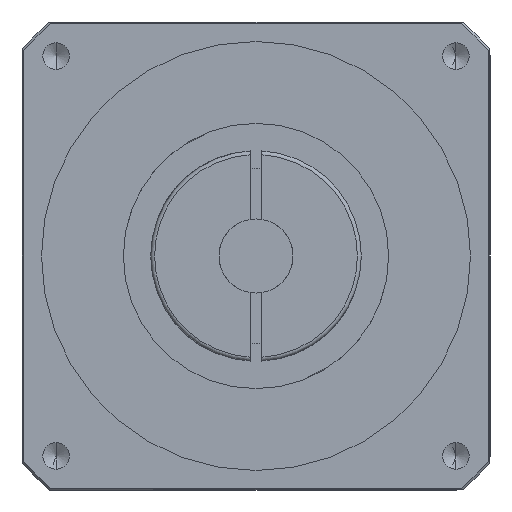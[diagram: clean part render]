
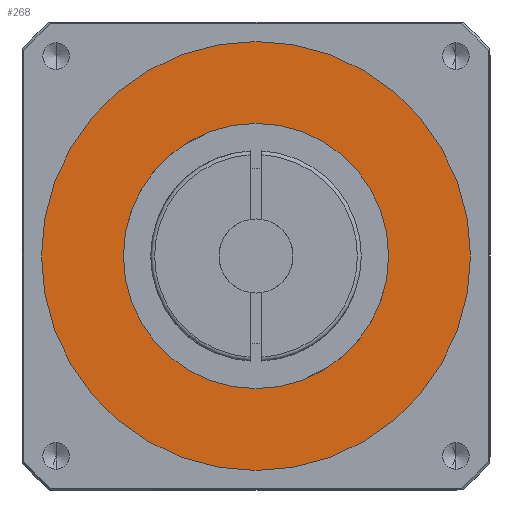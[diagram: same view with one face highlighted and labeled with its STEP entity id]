
A CAD part, front view. The second image highlights one B-rep face of the part: STEP entity #268.
In plain terms, the highlighted planar face has unit normal (0, -1, 0).
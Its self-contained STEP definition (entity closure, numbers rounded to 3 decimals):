
#268 = ADVANCED_FACE ( 'NONE', ( #2836, #2844 ), #4970, .T. ) ;
#821 = EDGE_CURVE ( 'NONE', #2356, #2357, #2944, .T. ) ;
#870 = EDGE_CURVE ( 'NONE', #2004, #1961, #3004, .T. ) ;
#1087 = EDGE_CURVE ( 'NONE', #1961, #2004, #3218, .T. ) ;
#1173 = EDGE_CURVE ( 'NONE', #2357, #2356, #3266, .T. ) ;
#1217 = ORIENTED_EDGE ( 'NONE', *, *, #821, .T. ) ;
#1219 = ORIENTED_EDGE ( 'NONE', *, *, #1173, .T. ) ;
#1526 = EDGE_LOOP ( 'NONE', ( #1219, #1217 ) ) ;
#1544 = EDGE_LOOP ( 'NONE', ( #2400, #2401 ) ) ;
#1961 = VERTEX_POINT ( 'NONE', #5772 ) ;
#2004 = VERTEX_POINT ( 'NONE', #5815 ) ;
#2356 = VERTEX_POINT ( 'NONE', #5970 ) ;
#2357 = VERTEX_POINT ( 'NONE', #5971 ) ;
#2400 = ORIENTED_EDGE ( 'NONE', *, *, #870, .T. ) ;
#2401 = ORIENTED_EDGE ( 'NONE', *, *, #1087, .T. ) ;
#2836 = FACE_OUTER_BOUND ( 'NONE', #1526, .T. ) ;
#2844 = FACE_BOUND ( 'NONE', #1544, .T. ) ;
#2944 = CIRCLE ( 'NONE', #5251, 55. ) ;
#3004 = CIRCLE ( 'NONE', #5271, 34. ) ;
#3218 = CIRCLE ( 'NONE', #5333, 34. ) ;
#3266 = CIRCLE ( 'NONE', #5352, 55. ) ;
#3669 = CARTESIAN_POINT ( 'NONE',  ( 0., -71., 0. ) ) ;
#3670 = DIRECTION ( 'NONE',  ( 0., -1., 0. ) ) ;
#3671 = DIRECTION ( 'NONE',  ( 0., 0., -1. ) ) ;
#4017 = CARTESIAN_POINT ( 'NONE',  ( 0., -71., 0. ) ) ;
#4018 = DIRECTION ( 'NONE',  ( 0., 1., 0. ) ) ;
#4019 = DIRECTION ( 'NONE',  ( 0., 0., -1. ) ) ;
#4966 = CARTESIAN_POINT ( 'NONE',  ( 0., -71., 0. ) ) ;
#4970 = PLANE ( 'NONE',  #5208 ) ;
#4972 = DIRECTION ( 'NONE',  ( 0., -1., 0. ) ) ;
#4973 = DIRECTION ( 'NONE',  ( 0., 0., -1. ) ) ;
#5208 = AXIS2_PLACEMENT_3D ( 'NONE', #4966, #4972, #4973 ) ;
#5251 = AXIS2_PLACEMENT_3D ( 'NONE', #3669, #3670, #3671 ) ;
#5271 = AXIS2_PLACEMENT_3D ( 'NONE', #4017, #4018, #4019 ) ;
#5333 = AXIS2_PLACEMENT_3D ( 'NONE', #5533, #5534, #5535 ) ;
#5352 = AXIS2_PLACEMENT_3D ( 'NONE', #5744, #5745, #5746 ) ;
#5533 = CARTESIAN_POINT ( 'NONE',  ( 0., -71., 0. ) ) ;
#5534 = DIRECTION ( 'NONE',  ( 0., 1., 0. ) ) ;
#5535 = DIRECTION ( 'NONE',  ( 0., 0., -1. ) ) ;
#5744 = CARTESIAN_POINT ( 'NONE',  ( 0., -71., 0. ) ) ;
#5745 = DIRECTION ( 'NONE',  ( 0., -1., 0. ) ) ;
#5746 = DIRECTION ( 'NONE',  ( 0., 0., -1. ) ) ;
#5772 = CARTESIAN_POINT ( 'NONE',  ( 0., -71., 34. ) ) ;
#5815 = CARTESIAN_POINT ( 'NONE',  ( 0., -71., -34. ) ) ;
#5970 = CARTESIAN_POINT ( 'NONE',  ( 0., -71., 55. ) ) ;
#5971 = CARTESIAN_POINT ( 'NONE',  ( 0., -71., -55. ) ) ;
